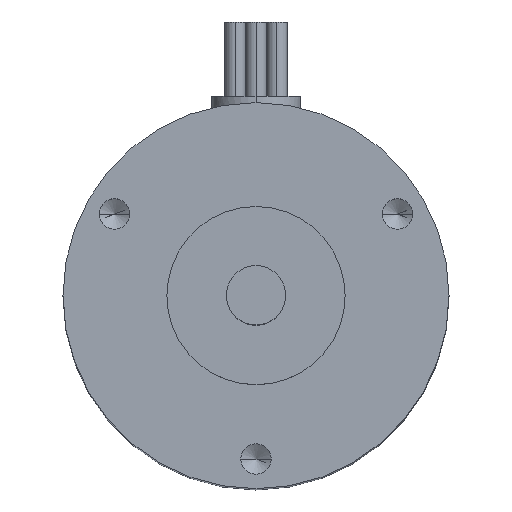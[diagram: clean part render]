
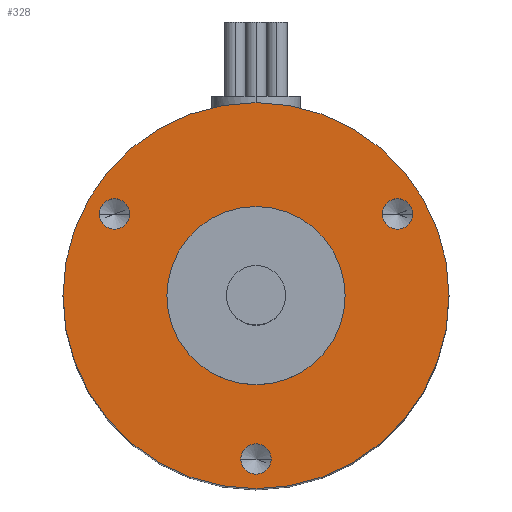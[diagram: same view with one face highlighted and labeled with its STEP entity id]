
A CAD part, top view. The second image highlights one B-rep face of the part: STEP entity #328.
In plain terms, the highlighted planar face has unit normal (0, 0, 1).
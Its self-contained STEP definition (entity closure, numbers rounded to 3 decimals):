
#11 = EDGE_CURVE ( 'NONE', #125, #642, #974, .T. ) ;
#32 = EDGE_LOOP ( 'NONE', ( #900, #1010 ) ) ;
#35 = DIRECTION ( 'NONE',  ( 0., 0., 1. ) ) ;
#38 = EDGE_CURVE ( 'NONE', #940, #997, #315, .T. ) ;
#39 = AXIS2_PLACEMENT_3D ( 'NONE', #759, #35, #483 ) ;
#51 = CARTESIAN_POINT ( 'NONE',  ( 0., 0., 0. ) ) ;
#63 = DIRECTION ( 'NONE',  ( 0., 0., 1. ) ) ;
#90 = EDGE_CURVE ( 'NONE', #145, #788, #297, .T. ) ;
#115 = ORIENTED_EDGE ( 'NONE', *, *, #533, .T. ) ;
#125 = VERTEX_POINT ( 'NONE', #601 ) ;
#127 = AXIS2_PLACEMENT_3D ( 'NONE', #635, #1047, #962 ) ;
#131 = CARTESIAN_POINT ( 'NONE',  ( 0., -11., 0. ) ) ;
#138 = DIRECTION ( 'NONE',  ( -1., 0., 0. ) ) ;
#144 = CARTESIAN_POINT ( 'NONE',  ( 10.551, 5.5, 0. ) ) ;
#145 = VERTEX_POINT ( 'NONE', #199 ) ;
#168 = EDGE_LOOP ( 'NONE', ( #732, #677 ) ) ;
#199 = CARTESIAN_POINT ( 'NONE',  ( -6., 0., 0. ) ) ;
#200 = EDGE_CURVE ( 'NONE', #408, #336, #753, .T. ) ;
#218 = FACE_BOUND ( 'NONE', #32, .T. ) ;
#223 = AXIS2_PLACEMENT_3D ( 'NONE', #490, #903, #564 ) ;
#234 = DIRECTION ( 'NONE',  ( 0., 0., 1. ) ) ;
#245 = CIRCLE ( 'NONE', #223, 1.025 ) ;
#289 = CARTESIAN_POINT ( 'NONE',  ( 1.025, -11., 0. ) ) ;
#295 = DIRECTION ( 'NONE',  ( 0., 0., 1. ) ) ;
#297 = CIRCLE ( 'NONE', #604, 6. ) ;
#304 = FACE_BOUND ( 'NONE', #698, .T. ) ;
#315 = CIRCLE ( 'NONE', #910, 1.025 ) ;
#320 = ORIENTED_EDGE ( 'NONE', *, *, #738, .F. ) ;
#328 = ADVANCED_FACE ( 'NONE', ( #792, #304, #402, #218, #387 ), #632, .F. ) ;
#336 = VERTEX_POINT ( 'NONE', #144 ) ;
#363 = CARTESIAN_POINT ( 'NONE',  ( 0., 0., 0. ) ) ;
#378 = AXIS2_PLACEMENT_3D ( 'NONE', #363, #512, #1000 ) ;
#387 = FACE_OUTER_BOUND ( 'NONE', #613, .T. ) ;
#389 = CARTESIAN_POINT ( 'NONE',  ( 8.501, 5.5, 0. ) ) ;
#402 = FACE_BOUND ( 'NONE', #168, .T. ) ;
#403 = ORIENTED_EDGE ( 'NONE', *, *, #653, .F. ) ;
#408 = VERTEX_POINT ( 'NONE', #389 ) ;
#412 = CARTESIAN_POINT ( 'NONE',  ( -9.526, 5.5, 0. ) ) ;
#438 = EDGE_CURVE ( 'NONE', #875, #916, #588, .T. ) ;
#480 = CIRCLE ( 'NONE', #497, 1.025 ) ;
#483 = DIRECTION ( 'NONE',  ( 1., 0., 0. ) ) ;
#490 = CARTESIAN_POINT ( 'NONE',  ( 9.526, 5.5, 0. ) ) ;
#497 = AXIS2_PLACEMENT_3D ( 'NONE', #131, #63, #1034 ) ;
#498 = DIRECTION ( 'NONE',  ( 0., 0., 1. ) ) ;
#499 = DIRECTION ( 'NONE',  ( 1., 0., 0. ) ) ;
#507 = CARTESIAN_POINT ( 'NONE',  ( 0., 0., 0. ) ) ;
#512 = DIRECTION ( 'NONE',  ( 0., 0., 1. ) ) ;
#533 = EDGE_CURVE ( 'NONE', #916, #875, #695, .T. ) ;
#551 = DIRECTION ( 'NONE',  ( 1., 0., 0. ) ) ;
#564 = DIRECTION ( 'NONE',  ( 1., 0., 0. ) ) ;
#588 = CIRCLE ( 'NONE', #787, 13. ) ;
#601 = CARTESIAN_POINT ( 'NONE',  ( -1.025, -11., 0. ) ) ;
#604 = AXIS2_PLACEMENT_3D ( 'NONE', #507, #913, #499 ) ;
#605 = CARTESIAN_POINT ( 'NONE',  ( -10.551, 5.5, 0. ) ) ;
#610 = EDGE_CURVE ( 'NONE', #788, #145, #855, .T. ) ;
#613 = EDGE_LOOP ( 'NONE', ( #115, #961 ) ) ;
#627 = DIRECTION ( 'NONE',  ( 1., 0., 0. ) ) ;
#632 = PLANE ( 'NONE',  #919 ) ;
#635 = CARTESIAN_POINT ( 'NONE',  ( -9.526, 5.5, 0. ) ) ;
#642 = VERTEX_POINT ( 'NONE', #289 ) ;
#648 = AXIS2_PLACEMENT_3D ( 'NONE', #1052, #234, #551 ) ;
#652 = DIRECTION ( 'NONE',  ( 0., 0., 1. ) ) ;
#653 = EDGE_CURVE ( 'NONE', #642, #125, #480, .T. ) ;
#677 = ORIENTED_EDGE ( 'NONE', *, *, #200, .F. ) ;
#683 = AXIS2_PLACEMENT_3D ( 'NONE', #51, #295, #878 ) ;
#695 = CIRCLE ( 'NONE', #378, 13. ) ;
#698 = EDGE_LOOP ( 'NONE', ( #403, #1023 ) ) ;
#731 = CARTESIAN_POINT ( 'NONE',  ( 13., 0., 0. ) ) ;
#732 = ORIENTED_EDGE ( 'NONE', *, *, #824, .F. ) ;
#738 = EDGE_CURVE ( 'NONE', #997, #940, #850, .T. ) ;
#753 = CIRCLE ( 'NONE', #39, 1.025 ) ;
#759 = CARTESIAN_POINT ( 'NONE',  ( 9.526, 5.5, 0. ) ) ;
#787 = AXIS2_PLACEMENT_3D ( 'NONE', #835, #498, #627 ) ;
#788 = VERTEX_POINT ( 'NONE', #968 ) ;
#792 = FACE_BOUND ( 'NONE', #998, .T. ) ;
#812 = CARTESIAN_POINT ( 'NONE',  ( -13., 0., 0. ) ) ;
#821 = DIRECTION ( 'NONE',  ( 1., 0., 0. ) ) ;
#824 = EDGE_CURVE ( 'NONE', #336, #408, #245, .T. ) ;
#835 = CARTESIAN_POINT ( 'NONE',  ( 0., 0., 0. ) ) ;
#850 = CIRCLE ( 'NONE', #127, 1.025 ) ;
#855 = CIRCLE ( 'NONE', #683, 6. ) ;
#875 = VERTEX_POINT ( 'NONE', #812 ) ;
#878 = DIRECTION ( 'NONE',  ( 1., 0., 0. ) ) ;
#880 = DIRECTION ( 'NONE',  ( 0., 0., -1. ) ) ;
#900 = ORIENTED_EDGE ( 'NONE', *, *, #610, .F. ) ;
#903 = DIRECTION ( 'NONE',  ( 0., 0., 1. ) ) ;
#910 = AXIS2_PLACEMENT_3D ( 'NONE', #412, #652, #821 ) ;
#913 = DIRECTION ( 'NONE',  ( 0., 0., 1. ) ) ;
#916 = VERTEX_POINT ( 'NONE', #731 ) ;
#919 = AXIS2_PLACEMENT_3D ( 'NONE', #960, #880, #138 ) ;
#935 = ORIENTED_EDGE ( 'NONE', *, *, #38, .F. ) ;
#937 = CARTESIAN_POINT ( 'NONE',  ( -8.501, 5.5, 0. ) ) ;
#940 = VERTEX_POINT ( 'NONE', #605 ) ;
#960 = CARTESIAN_POINT ( 'NONE',  ( 0., 6., 0. ) ) ;
#961 = ORIENTED_EDGE ( 'NONE', *, *, #438, .T. ) ;
#962 = DIRECTION ( 'NONE',  ( 1., 0., 0. ) ) ;
#968 = CARTESIAN_POINT ( 'NONE',  ( 6., 0., 0. ) ) ;
#974 = CIRCLE ( 'NONE', #648, 1.025 ) ;
#997 = VERTEX_POINT ( 'NONE', #937 ) ;
#998 = EDGE_LOOP ( 'NONE', ( #320, #935 ) ) ;
#1000 = DIRECTION ( 'NONE',  ( 1., 0., 0. ) ) ;
#1010 = ORIENTED_EDGE ( 'NONE', *, *, #90, .F. ) ;
#1023 = ORIENTED_EDGE ( 'NONE', *, *, #11, .F. ) ;
#1034 = DIRECTION ( 'NONE',  ( 1., 0., 0. ) ) ;
#1047 = DIRECTION ( 'NONE',  ( 0., 0., 1. ) ) ;
#1052 = CARTESIAN_POINT ( 'NONE',  ( 0., -11., 0. ) ) ;
